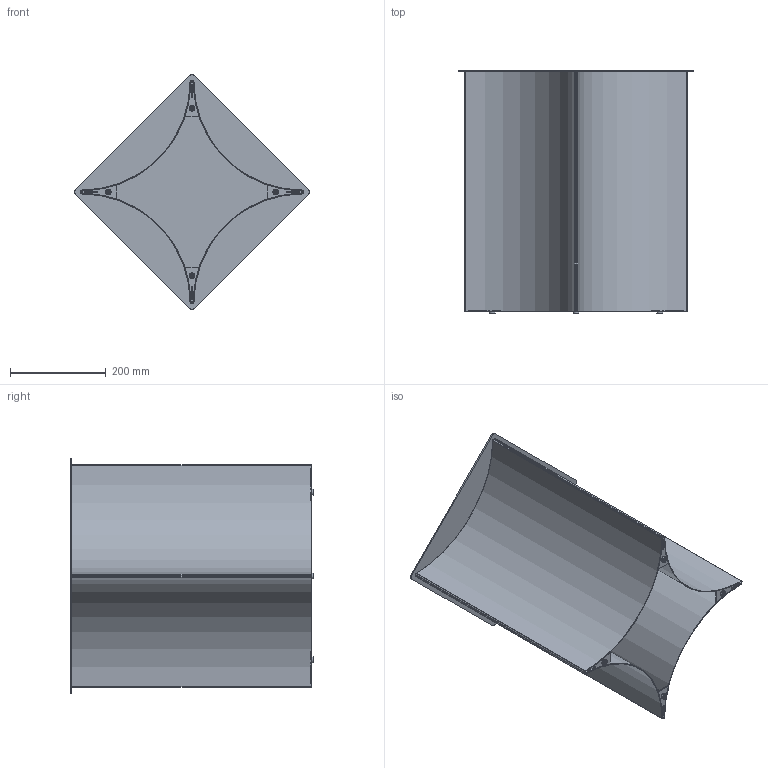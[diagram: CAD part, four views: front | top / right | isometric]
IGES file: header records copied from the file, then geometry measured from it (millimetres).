
Start section: SolidWorks IGES file using analytic representation for surfaces
Global section: file name: \\utenti\Dati Utenti\Tecnico\DC\2D - 3D per sito\3D\DeCastelli-3D-Alchemy 50.igs; native system: SolidWorks 2022; preprocessor: SolidWorks 2022; author: Simonep; date: 240729.120054; units: millimetre
Bounding box: 490.02 x 508 x 490 mm (x, y, z)
Surface area: 2026237.1 mm2 (no closed solid volume)
Topology: 0 solids, 0 shells, 143 faces, 1244 edges, 1236 vertices
Faces by surface type: bspline 90, revolution 53
